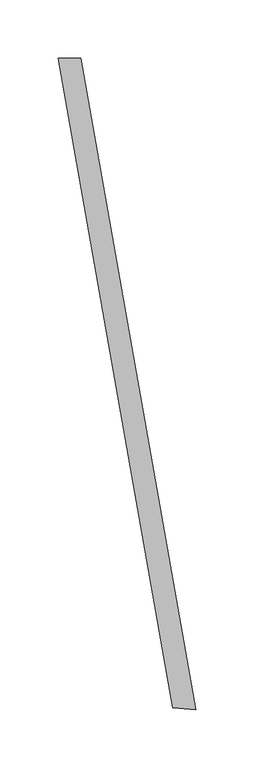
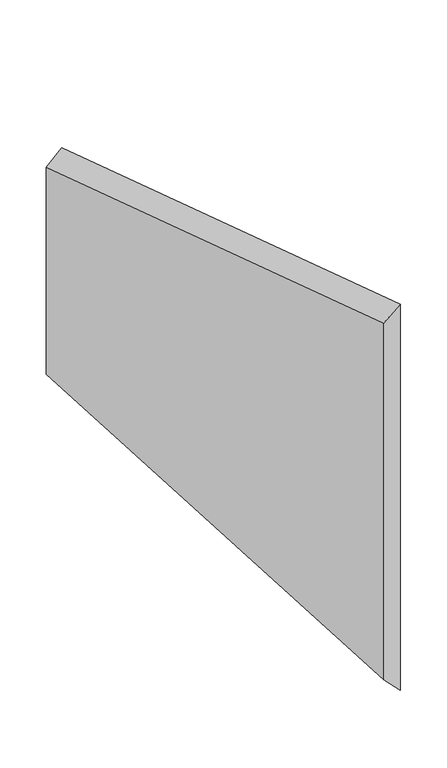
"""IFC4 building model written with IfcOpenShell, lengths in millimetres: proxy geometry, GRADIENT^TABLE 5_PRISM BASE-RT END TOP."""

import ifcopenshell
import ifcopenshell.guid

model = None  # the IFC model being written
_history = None  # IfcOwnerHistory: only IFC2X3 demands one
_inside = {}  # id of a spatial element -> (the spatial element, [elements in it])
_under = {}  # id of a project, library or spatial element -> (it, [spatial elements below it])
_declared = {}  # id of a project -> (the project, [libraries it declares])
_typed = {}  # id of a type object -> (the type object, [elements of that type])
_made_of = {}  # id of a material, layer set ... -> (it, [elements and type objects made of it])


def new_model(schema):
    """Start an empty IFC model of exactly this schema.

    Asked for "IFC4X3", IfcOpenShell would pick the latest addendum, in which some entities
    have other attributes; the version numbers below select the first issue.
    IFC2X3 requires an IfcOwnerHistory on every rooted entity: one is made here for all.
    """
    global model, _history
    if schema == "IFC4X3":
        model = ifcopenshell.file(schema_version=(4, 3, 0, 0))
    else:
        model = ifcopenshell.file(schema=schema)
    _inside.clear()
    _under.clear()
    _declared.clear()
    _typed.clear()
    _made_of.clear()
    _history = None
    if model.schema == "IFC2X3":
        org = make("IfcOrganization", Name="unknown")
        user = make(
            "IfcPersonAndOrganization",
            ThePerson=make("IfcPerson", FamilyName="unknown"),
            TheOrganization=org,
        )
        app = make(
            "IfcApplication",
            ApplicationDeveloper=org,
            Version="unknown",
            ApplicationFullName="unknown",
            ApplicationIdentifier="unknown",
        )
        _history = make(
            "IfcOwnerHistory",
            OwningUser=user,
            OwningApplication=app,
            ChangeAction="ADDED",
            CreationDate=0,
        )
    return model


def make(cls, **values):
    """One entity of the class cls with the attributes given. An attribute that is None is left unset."""
    return model.create_entity(
        cls, **{name: value for name, value in values.items() if value is not None}
    )


def rooted(cls, **values):
    """An entity with a GlobalId (a new one), such as an element, a storey or a relation."""
    return make(cls, GlobalId=ifcopenshell.guid.new(), OwnerHistory=_history, **values)


def si_unit(unit_type, name, prefix=None):
    """IfcSIUnit, for example si_unit("LENGTHUNIT", "METRE", prefix="MILLI")."""
    return make("IfcSIUnit", UnitType=unit_type, Prefix=prefix, Name=name)


def assignment(units):
    """IfcUnitAssignment: the units of a project."""
    return None if units is None else make("IfcUnitAssignment", Units=units)


def point(xyz):
    """IfcCartesianPoint."""
    return None if xyz is None else make("IfcCartesianPoint", Coordinates=xyz)


def direction(xyz):
    """IfcDirection."""
    return None if xyz is None else make("IfcDirection", DirectionRatios=xyz)


def frame(location, z_axis=None, x_axis=None):
    """IfcAxis2Placement3D, a coordinate frame: its origin and axes. An axis left out is left unset."""
    return make(
        "IfcAxis2Placement3D",
        Location=point(location),
        Axis=direction(z_axis),
        RefDirection=direction(x_axis),
    )


def origin():
    """The frame at (0, 0, 0) with its axes left unset."""
    return frame((0.0, 0.0, 0.0))


def place(relative_to, where):
    """IfcLocalPlacement: puts the frame where relative to a parent placement (None: the world)."""
    return make(
        "IfcLocalPlacement", PlacementRelTo=relative_to, RelativePlacement=where
    )


def context(
    kind, dimensions, precision=None, world=None, true_north=None, identifier=None
):
    """IfcGeometricRepresentationContext, for example the 3D "Model" context."""
    return make(
        "IfcGeometricRepresentationContext",
        ContextIdentifier=identifier,
        ContextType=kind,
        CoordinateSpaceDimension=dimensions,
        Precision=precision,
        WorldCoordinateSystem=world,
        TrueNorth=true_north,
    )


def project(units=None, contexts=None):
    """IfcProject with its units and contexts."""
    return rooted(
        "IfcProject",
        Name="project",
        RepresentationContexts=contexts,
        UnitsInContext=assignment(units),
    )


def spatial(cls, under=None, at=None, **own):
    """A site, building, storey or space (cls), placed at a placement, below another one or the project."""
    s = rooted(cls, ObjectPlacement=at, **own)
    if under is not None:
        _under.setdefault(under.id(), (under, []))[1].append(s)
    return s


def faces_of(points, faces, orient=None, outer=None):
    """IfcFace entities. A face is a list of loops; a loop is a list of indices into points, from 0.

    orient and outer hold one flag for each loop. By default every Orientation is true, the
    first loop of a face is its IfcFaceOuterBound and the others are IfcFaceBound.
    """
    made = []
    for i, loops in enumerate(faces):
        bounds = []
        for j, loop in enumerate(loops):
            is_outer = j == 0 if outer is None else outer[i][j]
            bounds.append(
                make(
                    "IfcFaceOuterBound" if is_outer else "IfcFaceBound",
                    Bound=make("IfcPolyLoop", Polygon=[points[k] for k in loop]),
                    Orientation=True if orient is None else orient[i][j],
                )
            )
        made.append(make("IfcFace", Bounds=bounds))
    return made


def faceted_brep(points, faces, orient=None, outer=None, voids=None):
    """IfcFacetedBrep: a solid bounded by flat faces; with voids (closed shells), ...WithVoids."""
    shared = [point(p) for p in points]
    hull = make("IfcClosedShell", CfsFaces=faces_of(shared, faces, orient, outer))
    if voids is None:
        return make("IfcFacetedBrep", Outer=hull)
    return make(
        "IfcFacetedBrepWithVoids",
        Outer=hull,
        Voids=[
            make(cls, CfsFaces=faces_of(shared, fs, o, b)) for cls, fs, o, b in voids
        ],
    )


def shape(context_of_items, identifier, shape_type, items):
    """IfcShapeRepresentation: the items that make up one representation, for example the "Body"."""
    return make(
        "IfcShapeRepresentation",
        ContextOfItems=context_of_items,
        RepresentationIdentifier=identifier,
        RepresentationType=shape_type,
        Items=items,
    )


def source(mapping_origin, context_of_items, identifier, shape_type, items):
    """IfcRepresentationMap: a shape defined once, which mapped items show again and again."""
    return make(
        "IfcRepresentationMap",
        MappingOrigin=mapping_origin,
        MappedRepresentation=shape(context_of_items, identifier, shape_type, items),
    )


def transform(
    local_origin,
    x_axis=None,
    y_axis=None,
    z_axis=None,
    scale=None,
    scale2=None,
    scale3=None,
    uniform=True,
):
    """IfcCartesianTransformationOperator3D, or its non-uniform kind. x_axis, y_axis, z_axis: its Axis1, 2, 3."""
    if uniform:
        return make(
            "IfcCartesianTransformationOperator3D",
            Axis1=direction(x_axis),
            Axis2=direction(y_axis),
            LocalOrigin=point(local_origin),
            Scale=scale,
            Axis3=direction(z_axis),
        )
    return make(
        "IfcCartesianTransformationOperator3DnonUniform",
        Axis1=direction(x_axis),
        Axis2=direction(y_axis),
        LocalOrigin=point(local_origin),
        Scale=scale,
        Axis3=direction(z_axis),
        Scale2=scale2,
        Scale3=scale3,
    )


def mapped(mapping_source, mapping_target):
    """IfcMappedItem: shows the shape of a source again, moved by a transform."""
    return make(
        "IfcMappedItem", MappingSource=mapping_source, MappingTarget=mapping_target
    )


def made_of(thing, what):
    """Note that an element or type object is made of a material, layer set ...; save() writes the relation."""
    if what is not None:
        _made_of.setdefault(what.id(), (what, []))[1].append(thing)
    return thing


def element(
    cls,
    number,
    at=None,
    inside=None,
    cuts=None,
    type_object=None,
    material=None,
    context=None,
    identifier="Body",
    shape_type=None,
    held_by="IfcProductDefinitionShape",
    body=None,
    shapes=None,
    **own,
):
    """One element of the class cls, such as IfcWall. Its Tag is "e" and its number.

    at: its placement. inside: the storey or other place that contains it. cuts: it is an
    opening in that element (IfcRelVoidsElement). A single representation is given by context,
    identifier, shape_type and body (its items); several are given by shapes. held_by: the class
    of the entity that holds the representations. save() writes the other relations.
    """
    e = rooted(cls, Tag="e%d" % number, ObjectPlacement=at, **own)
    if body is not None:
        shapes = [shape(context, identifier, shape_type, body)]
    if shapes is not None:
        e.Representation = make(held_by, Representations=shapes)
    if inside is not None:
        _inside.setdefault(inside.id(), (inside, []))[1].append(e)
    if cuts is not None:
        rooted(
            "IfcRelVoidsElement", RelatingBuildingElement=cuts, RelatedOpeningElement=e
        )
    if type_object is not None:
        _typed.setdefault(type_object.id(), (type_object, []))[1].append(e)
    return made_of(e, material)


def aggregate(whole, parts):
    """IfcRelAggregates: a whole, such as a stair, and the parts it consists of."""
    return rooted("IfcRelAggregates", RelatingObject=whole, RelatedObjects=parts)


def save(model, path):
    """Write the relations noted so far, then the file.

    IfcRelAggregates (storeys below a building ...), IfcRelContainedInSpatialStructure (elements
    in a storey), IfcRelDefinesByType, IfcRelAssociatesMaterial and IfcRelDeclares: one each for
    every whole, place, type object, material and project.
    """
    for whole, parts in _under.values():
        aggregate(whole, parts)
    for where, things in _inside.values():
        rooted(
            "IfcRelContainedInSpatialStructure",
            RelatedElements=things,
            RelatingStructure=where,
        )
    for kind, things in _typed.values():
        rooted("IfcRelDefinesByType", RelatedObjects=things, RelatingType=kind)
    for what, things in _made_of.values():
        rooted("IfcRelAssociatesMaterial", RelatedObjects=things, RelatingMaterial=what)
    for by, libraries in _declared.values():
        rooted("IfcRelDeclares", RelatingContext=by, RelatedDefinitions=libraries)
    model.write(path)


def generic_models_0918f51e(model_context):
    return source(origin(), model_context, "Body", "Brep", [
        faceted_brep([(1961.553037, -557.0811135, -375.246963), (1981.2, -558.8, -355.6), (1882.6684832, 0.0, -454.1315168), (1863.3246062, 0.0, -473.4753938), (1961.553037, -557.0811135, -843.953037), (1981.2, -558.8, -863.6), (1882.6684832, 0.0, -765.0684832), (1863.3246062, 0.0, -745.7246062)], [[[0, 1, 2, 3]], [[1, 0, 4, 5]], [[3, 2, 6, 7]], [[0, 3, 7, 4]], [[5, 4, 7, 6]], [[2, 1, 5, 6]]]),
    ])


if __name__ == "__main__":
    model = new_model("IFC4")
    model_context = context("Model", 3, world=origin())
    ifc_project = project(units=[si_unit("LENGTHUNIT", "METRE", prefix="MILLI")], contexts=[model_context])
    site = spatial("IfcSite", under=ifc_project)
    building = spatial("IfcBuilding", under=site)
    placement = place(None, origin())
    generic_models_shape = generic_models_0918f51e(model_context)
    element("IfcBuildingElementProxy", 1, Name="GRADIENT^TABLE 5_PRISM BASE-RT END TOP", ObjectType="GRADIENT^TABLE 5_PRISM BASE-RT END TOP", at=placement, inside=building, context=model_context, shape_type="MappedRepresentation", body=[
        mapped(generic_models_shape, transform((0.0, 0.0, 0.0), x_axis=(1.0, 0.0, 0.0), y_axis=(0.0, 1.0, 0.0), z_axis=(0.0, 0.0, 1.0))),
    ])
    save(model, "model.ifc")
